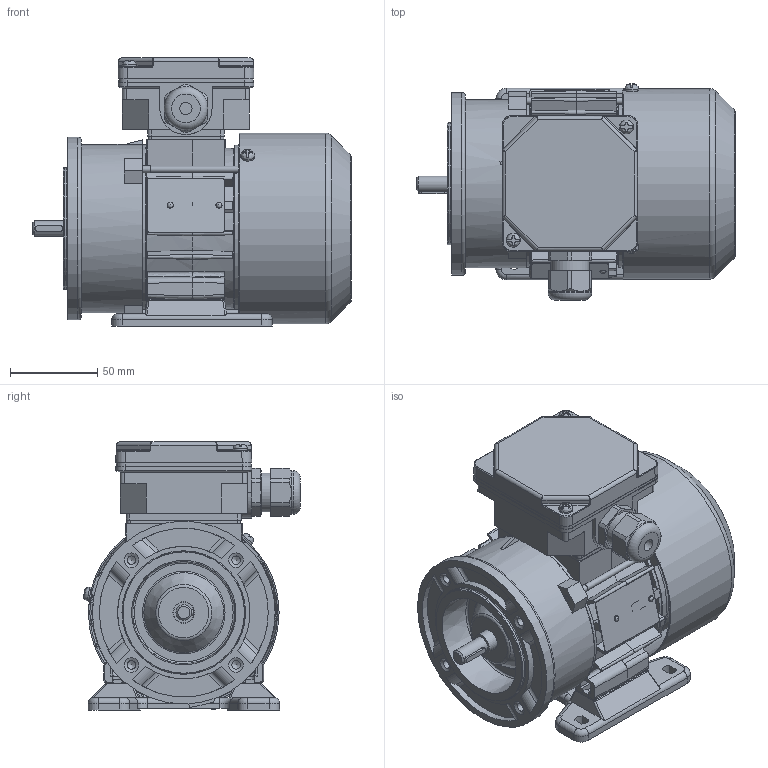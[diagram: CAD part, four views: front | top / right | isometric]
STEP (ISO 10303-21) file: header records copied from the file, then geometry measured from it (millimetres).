
FILE_DESCRIPTION( ( 'Unknown' ), '1' );
FILE_NAME( 'G:/Poczta Tk-1/STP/w.m.56/Sh56/SLh56-A1.stp', 'Unknown', ( 'K. Szlosek' ), ( 'BESEL S.A.' ), 'PSStep 17.0.49', 'Unknown', ' ' );
FILE_SCHEMA( ( 'AUTOMOTIVE_DESIGN { 1 0 10303 214 1 1 1 1 }' ) );
Length unit declared in the file: millimetre
Products named in the file (29): Assem1; K4-2320 Uszczelka nr 1 Sh71,80; K3-9987 kadłub ze stojanem Sh56-B; K3-2193 Tarcza łożyskowa P Sg56-2..; K3-9990 wał Sh56-B; K2-0860 Pokrywka skrzynki zaciskowej; Wpust A3x3x16; K4-2820 Uszczelka nr 2 Sh71,80; Wkręt samogwintujący M4x8; Wkręt samogwintujący M4x16; K2-0879 Przewietrznik Sg56; Nitokołek A 2x6; K1-0529 Tarcza kołnierzowa B14_1 SKg56-..1; K3-11363 Osłona przewietrznika Sh 56_A; K1-0484 Łapa Sg56-.. w. robocza; K2-0859 Podstawa skrzynki 6-cio zaciskowej; Śruba ściągająca E_M4x75; Łożysko 6201; Dławnica M20x1,5; Tabliczka znamionowa 32x44
Assembly tree (44 placements, depth 2):
  Assem1
    K4-2320 Uszczelka nr 1 Sh71,80
    K3-9987 kadłub ze stojanem Sh56-B
    K3-2193 Tarcza łożyskowa P Sg56-2..
    K3-9990 wał Sh56-B
    K2-0860 Pokrywka skrzynki zaciskowej
    Wpust A3x3x16
    K4-2820 Uszczelka nr 2 Sh71,80
    Wkręt samogwintujący M4x8  x3
    Wkręt samogwintujący M4x16  x2
    K2-0879 Przewietrznik Sg56
    Nitokołek A 2x6  x2
    K1-0529 Tarcza kołnierzowa B14_1 SKg56-..1
    K3-11363 Osłona przewietrznika Sh 56_A
    K1-0484 Łapa Sg56-.. w. robocza
    K2-0859 Podstawa skrzynki 6-cio zaciskowej
    Śruba ściągająca E_M4x75  x3
    Łożysko 6201  x2
    Łożysko 6201  x2
    Łożysko 6201  x2
    Łożysko 6201  x2
    Łożysko 6201  x2
    Łożysko 6201  x2
    Łożysko 6201  x2
    Łożysko 6201  x2
    Łożysko 6201  x2
    Łożysko 6201  x2
    Dławnica M20x1,5
    Tabliczka znamionowa 32x44
Bounding box: 183 x 124.54 x 154 mm (x, y, z)
Volume: 490819.1 mm3; surface area: 315244.1 mm2
Topology: 44 solids, 60 shells, 1879 faces, 5050 edges, 3244 vertices
Faces by surface type: plane 962, cylinder 563, torus 136, cone 108, bspline 76, sphere 34
Full cylindrical faces by diameter (mm): 2 x2, 2.4 x2, 3.242 x3, 3.7 x10, 4 x8, 4.5 x4, 4.6 x1, 4.8 x4, 4.917 x4, 5 x4, 5.8 x4, 7 x4, 8 x6, 9 x1, 10.9 x1, 11 x1, 11.5 x1, 11.8 x2, 12 x4, 12.4 x2, 15.5 x1, 16 x1, 16.1 x1, 17 x2, 18 x1, 18.376 x1, 18.38 x1, 18.52 x4, 20 x1, 22.3 x1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
Entity records: 78822 total; most frequent: CARTESIAN_POINT 22269, DIRECTION 8811, ORIENTED_EDGE 8684, EDGE_CURVE 4342, AXIS2_PLACEMENT_3D 3268, VERTEX_POINT 2928, LINE 2275, VECTOR 2275
